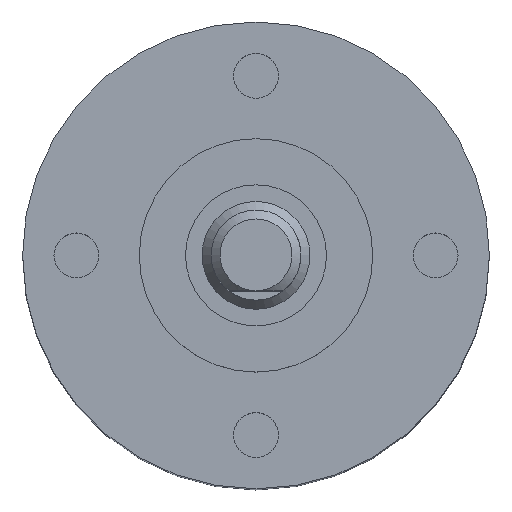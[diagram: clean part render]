
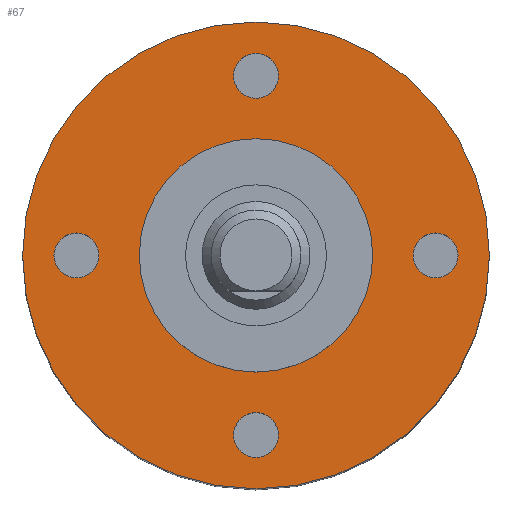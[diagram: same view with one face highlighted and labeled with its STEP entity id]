
A CAD part, top view. The second image highlights one B-rep face of the part: STEP entity #67.
In plain terms, the highlighted planar face has unit normal (0, 0, 1).
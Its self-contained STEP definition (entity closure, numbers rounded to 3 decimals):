
#34=PLANE('',#500);
#67=ADVANCED_FACE('',(#124,#125,#126,#127,#128,#129),#34,.T.);
#124=FACE_BOUND('',#179,.T.);
#125=FACE_BOUND('',#180,.T.);
#126=FACE_BOUND('',#181,.T.);
#127=FACE_BOUND('',#182,.T.);
#128=FACE_BOUND('',#183,.T.);
#129=FACE_BOUND('',#184,.T.);
#179=EDGE_LOOP('',(#248));
#180=EDGE_LOOP('',(#249));
#181=EDGE_LOOP('',(#250));
#182=EDGE_LOOP('',(#251));
#183=EDGE_LOOP('',(#252));
#184=EDGE_LOOP('',(#253));
#248=ORIENTED_EDGE('',*,*,#354,.T.);
#249=ORIENTED_EDGE('',*,*,#355,.T.);
#250=ORIENTED_EDGE('',*,*,#356,.T.);
#251=ORIENTED_EDGE('',*,*,#357,.T.);
#252=ORIENTED_EDGE('',*,*,#358,.F.);
#253=ORIENTED_EDGE('',*,*,#352,.T.);
#316=VERTEX_POINT('',#744);
#318=VERTEX_POINT('',#750);
#319=VERTEX_POINT('',#752);
#320=VERTEX_POINT('',#754);
#321=VERTEX_POINT('',#756);
#322=VERTEX_POINT('',#758);
#352=EDGE_CURVE('',#316,#316,#415,.T.);
#354=EDGE_CURVE('',#318,#318,#417,.T.);
#355=EDGE_CURVE('',#319,#319,#418,.T.);
#356=EDGE_CURVE('',#320,#320,#419,.T.);
#357=EDGE_CURVE('',#321,#321,#420,.T.);
#358=EDGE_CURVE('',#322,#322,#421,.T.);
#415=CIRCLE('',#491,13.);
#417=CIRCLE('',#495,1.25);
#418=CIRCLE('',#496,1.25);
#419=CIRCLE('',#497,1.25);
#420=CIRCLE('',#498,1.25);
#421=CIRCLE('',#499,6.5);
#491=AXIS2_PLACEMENT_3D('',#743,#588,#589);
#495=AXIS2_PLACEMENT_3D('',#749,#596,#597);
#496=AXIS2_PLACEMENT_3D('',#751,#598,#599);
#497=AXIS2_PLACEMENT_3D('',#753,#600,#601);
#498=AXIS2_PLACEMENT_3D('',#755,#602,#603);
#499=AXIS2_PLACEMENT_3D('',#757,#604,#605);
#500=AXIS2_PLACEMENT_3D('',#759,#606,#607);
#588=DIRECTION('',(0.,0.,1.));
#589=DIRECTION('',(1.,0.,0.));
#596=DIRECTION('',(0.,0.,-1.));
#597=DIRECTION('',(0.,-1.,0.));
#598=DIRECTION('',(0.,0.,-1.));
#599=DIRECTION('',(1.,0.,0.));
#600=DIRECTION('',(0.,0.,-1.));
#601=DIRECTION('',(0.,1.,0.));
#602=DIRECTION('',(0.,0.,-1.));
#603=DIRECTION('',(-1.,0.,0.));
#604=DIRECTION('',(0.,0.,1.));
#605=DIRECTION('',(1.,0.,0.));
#606=DIRECTION('',(0.,0.,1.));
#607=DIRECTION('',(1.,0.,0.));
#743=CARTESIAN_POINT('',(0.,0.,36.4));
#744=CARTESIAN_POINT('',(13.,0.,36.4));
#749=CARTESIAN_POINT('',(-10.,0.,36.4));
#750=CARTESIAN_POINT('',(-10.,-1.25,36.4));
#751=CARTESIAN_POINT('',(0.,-10.,36.4));
#752=CARTESIAN_POINT('',(1.25,-10.,36.4));
#753=CARTESIAN_POINT('',(10.,0.,36.4));
#754=CARTESIAN_POINT('',(10.,1.25,36.4));
#755=CARTESIAN_POINT('',(0.,10.,36.4));
#756=CARTESIAN_POINT('',(-1.25,10.,36.4));
#757=CARTESIAN_POINT('',(0.,0.,36.4));
#758=CARTESIAN_POINT('',(6.5,0.,36.4));
#759=CARTESIAN_POINT('',(0.,0.,36.4));
